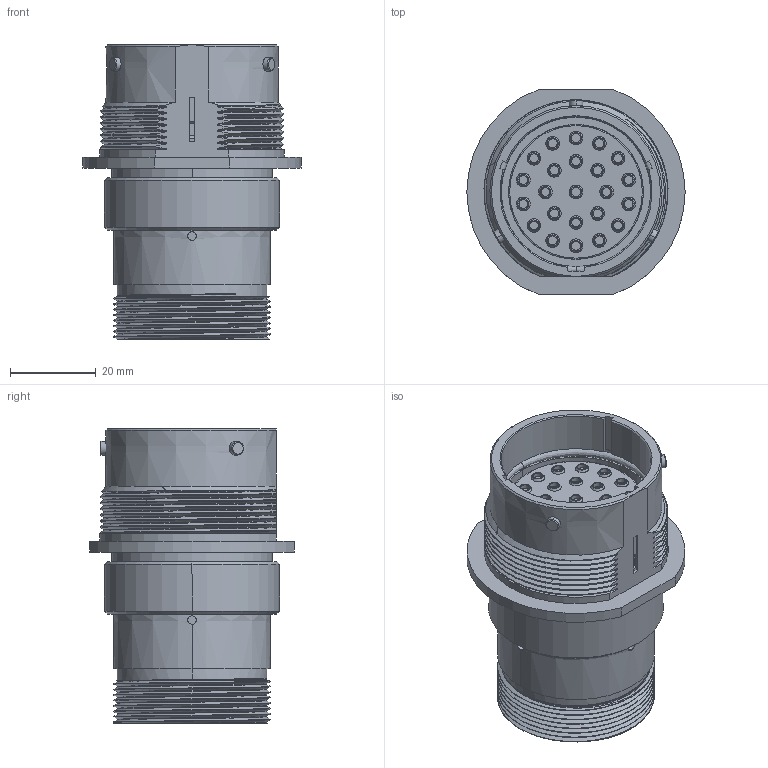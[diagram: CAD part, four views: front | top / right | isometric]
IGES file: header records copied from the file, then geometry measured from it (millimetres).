
Start section:  PTC IGES file: c-hd34-24-23pn-072-99-3d.igs
Global section: file name: c-hd34-24-23pn-072-99-3d.igs; native system: Pro/ENGINEER by Parametric Technology Corporation; preprocessor: 2010430; author: workeradm; organization: Unknown; units: millimetre
Bounding box: 50.8 x 47.62 x 68.5 mm (x, y, z)
Surface area: 20886.9 mm2 (no closed solid volume)
Topology: 0 solids, 0 shells, 455 faces, 1986 edges, 1986 vertices
Faces by surface type: revolution 282, bspline 173
